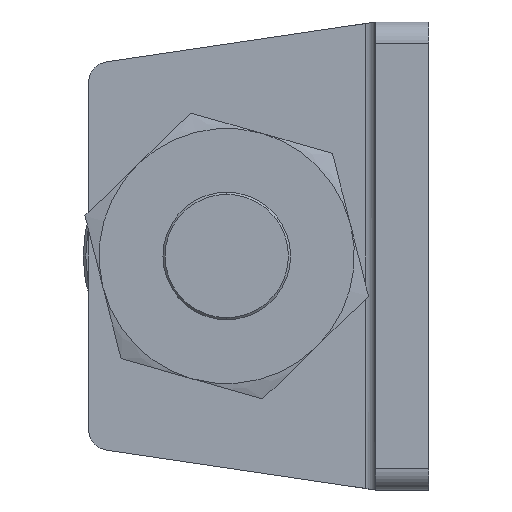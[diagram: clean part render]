
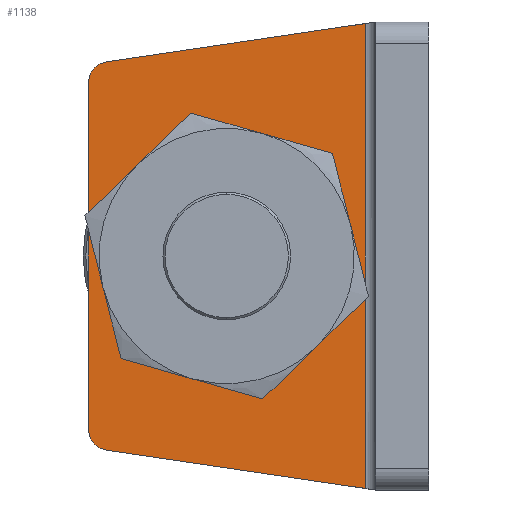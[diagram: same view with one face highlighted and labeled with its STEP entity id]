
A CAD part, left-side view. The second image highlights one B-rep face of the part: STEP entity #1138.
In plain terms, the highlighted planar face has unit normal (-1, 0, 0).
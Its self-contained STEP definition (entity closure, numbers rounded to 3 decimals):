
#16 = CARTESIAN_POINT ( 'NONE',  ( -5., 12.357, -20.91 ) ) ;
#17 = CARTESIAN_POINT ( 'NONE',  ( -5., 6., -21.852 ) ) ;
#26 = CARTESIAN_POINT ( 'NONE',  ( -5., 19., 0. ) ) ;
#27 = ORIENTED_EDGE ( 'NONE', *, *, #2444, .T. ) ;
#82 = VERTEX_POINT ( 'NONE', #1402 ) ;
#184 = EDGE_LOOP ( 'NONE', ( #2731, #1034, #27, #2588, #1464, #1421 ) ) ;
#194 = AXIS2_PLACEMENT_3D ( 'NONE', #1959, #2419, #888 ) ;
#418 = DIRECTION ( 'NONE',  ( 0., 1., 0. ) ) ;
#533 = EDGE_CURVE ( 'NONE', #2965, #82, #1329, .T. ) ;
#558 = DIRECTION ( 'NONE',  ( 0., -0.989, -0.147 ) ) ;
#569 = ORIENTED_EDGE ( 'NONE', *, *, #533, .T. ) ;
#598 = DIRECTION ( 'NONE',  ( 1., 0., 0. ) ) ;
#797 = EDGE_CURVE ( 'NONE', #1830, #1939, #2958, .T. ) ;
#812 = VECTOR ( 'NONE', #1807, 1000. ) ;
#829 = VERTEX_POINT ( 'NONE', #2678 ) ;
#888 = DIRECTION ( 'NONE',  ( 0., 1., 0. ) ) ;
#905 = DIRECTION ( 'NONE',  ( 0., 0.989, -0.147 ) ) ;
#1013 = CARTESIAN_POINT ( 'NONE',  ( -5., 5.979, 21.855 ) ) ;
#1029 = EDGE_CURVE ( 'NONE', #2307, #1830, #2762, .T. ) ;
#1034 = ORIENTED_EDGE ( 'NONE', *, *, #2277, .T. ) ;
#1050 = DIRECTION ( 'NONE',  ( 0., 1., 0. ) ) ;
#1085 = CARTESIAN_POINT ( 'NONE',  ( -5., 19., 0. ) ) ;
#1118 = LINE ( 'NONE', #1013, #2445 ) ;
#1138 = ADVANCED_FACE ( 'NONE', ( #1172, #2741 ), #3042, .F. ) ;
#1172 = FACE_BOUND ( 'NONE', #1305, .T. ) ;
#1196 = EDGE_CURVE ( 'NONE', #1290, #1939, #2797, .T. ) ;
#1197 = ORIENTED_EDGE ( 'NONE', *, *, #2084, .T. ) ;
#1239 = AXIS2_PLACEMENT_3D ( 'NONE', #1317, #2562, #1614 ) ;
#1288 = DIRECTION ( 'NONE',  ( 1., 0., 0. ) ) ;
#1290 = VERTEX_POINT ( 'NONE', #1569 ) ;
#1305 = EDGE_LOOP ( 'NONE', ( #569, #1197 ) ) ;
#1317 = CARTESIAN_POINT ( 'NONE',  ( -5., 30., 16.274 ) ) ;
#1329 = CIRCLE ( 'NONE', #3071, 6. ) ;
#1392 = AXIS2_PLACEMENT_3D ( 'NONE', #2356, #3024, #418 ) ;
#1402 = CARTESIAN_POINT ( 'NONE',  ( -5., 19., -6. ) ) ;
#1421 = ORIENTED_EDGE ( 'NONE', *, *, #1196, .F. ) ;
#1445 = VERTEX_POINT ( 'NONE', #2883 ) ;
#1464 = ORIENTED_EDGE ( 'NONE', *, *, #797, .T. ) ;
#1560 = CARTESIAN_POINT ( 'NONE',  ( -5., 32., 22. ) ) ;
#1569 = CARTESIAN_POINT ( 'NONE',  ( -5., 6., 21.852 ) ) ;
#1614 = DIRECTION ( 'NONE',  ( 0., 1., 0. ) ) ;
#1807 = DIRECTION ( 'NONE',  ( 0., 0., -1. ) ) ;
#1813 = CARTESIAN_POINT ( 'NONE',  ( -5., 32., -16.274 ) ) ;
#1830 = VERTEX_POINT ( 'NONE', #2181 ) ;
#1832 = VECTOR ( 'NONE', #558, 1000. ) ;
#1848 = VECTOR ( 'NONE', #2850, 1000. ) ;
#1939 = VERTEX_POINT ( 'NONE', #17 ) ;
#1959 = CARTESIAN_POINT ( 'NONE',  ( -5., 6., 22. ) ) ;
#2084 = EDGE_CURVE ( 'NONE', #82, #2965, #2224, .T. ) ;
#2181 = CARTESIAN_POINT ( 'NONE',  ( -5., 30.293, -18.253 ) ) ;
#2224 = CIRCLE ( 'NONE', #2987, 6. ) ;
#2267 = EDGE_CURVE ( 'NONE', #1290, #1445, #1118, .T. ) ;
#2277 = EDGE_CURVE ( 'NONE', #1445, #829, #3018, .T. ) ;
#2307 = VERTEX_POINT ( 'NONE', #1813 ) ;
#2356 = CARTESIAN_POINT ( 'NONE',  ( -5., 30., -16.274 ) ) ;
#2419 = DIRECTION ( 'NONE',  ( 1., 0., 0. ) ) ;
#2444 = EDGE_CURVE ( 'NONE', #829, #2307, #2658, .T. ) ;
#2445 = VECTOR ( 'NONE', #905, 1000. ) ;
#2562 = DIRECTION ( 'NONE',  ( -1., 0., 0. ) ) ;
#2588 = ORIENTED_EDGE ( 'NONE', *, *, #1029, .T. ) ;
#2658 = LINE ( 'NONE', #1560, #1848 ) ;
#2678 = CARTESIAN_POINT ( 'NONE',  ( -5., 32., 16.274 ) ) ;
#2731 = ORIENTED_EDGE ( 'NONE', *, *, #2267, .T. ) ;
#2741 = FACE_OUTER_BOUND ( 'NONE', #184, .T. ) ;
#2742 = CARTESIAN_POINT ( 'NONE',  ( -5., 6., 22. ) ) ;
#2762 = CIRCLE ( 'NONE', #1392, 2. ) ;
#2786 = CARTESIAN_POINT ( 'NONE',  ( -5., 19., 6. ) ) ;
#2797 = LINE ( 'NONE', #2742, #812 ) ;
#2850 = DIRECTION ( 'NONE',  ( 0., 0., -1. ) ) ;
#2862 = DIRECTION ( 'NONE',  ( 0., 1., 0. ) ) ;
#2883 = CARTESIAN_POINT ( 'NONE',  ( -5., 30.293, 18.253 ) ) ;
#2958 = LINE ( 'NONE', #16, #1832 ) ;
#2965 = VERTEX_POINT ( 'NONE', #2786 ) ;
#2987 = AXIS2_PLACEMENT_3D ( 'NONE', #26, #1288, #1050 ) ;
#3018 = CIRCLE ( 'NONE', #1239, 2. ) ;
#3024 = DIRECTION ( 'NONE',  ( -1., 0., 0. ) ) ;
#3042 = PLANE ( 'NONE',  #194 ) ;
#3071 = AXIS2_PLACEMENT_3D ( 'NONE', #1085, #598, #2862 ) ;
